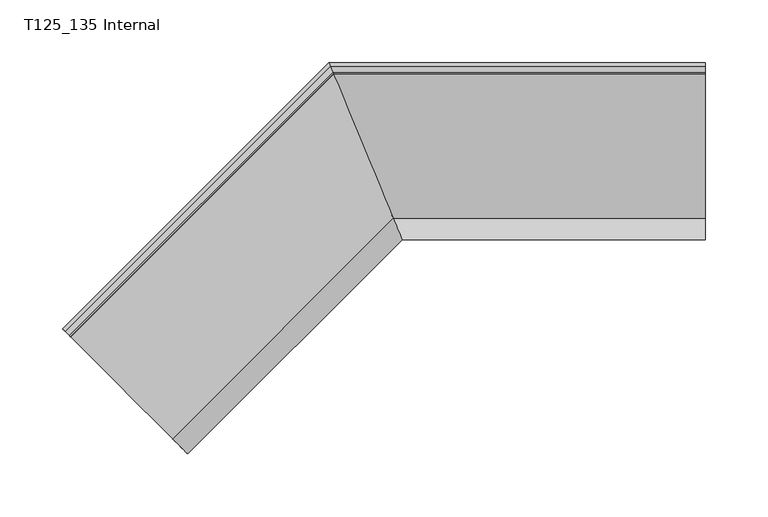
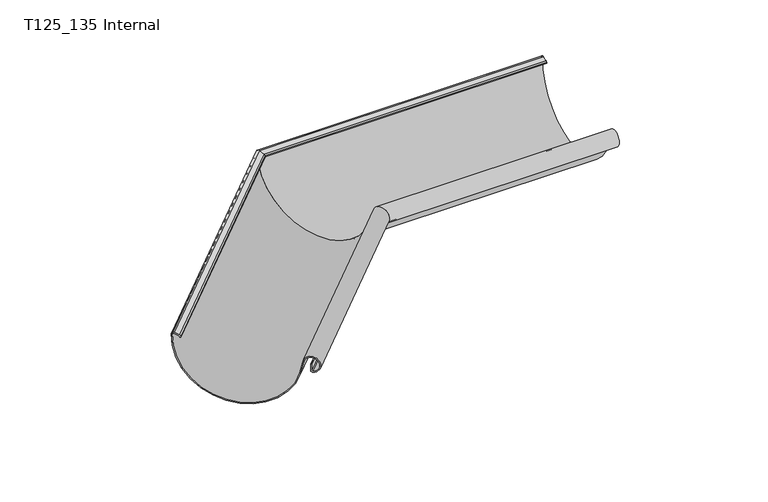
"""IFC4 building model written with IfcOpenShell, lengths in millimetres: proxy geometry, GROVIK_Gutter_Corner : T125_135 Internal."""

import ifcopenshell
import ifcopenshell.guid

model = None  # the IFC model being written
_history = None  # IfcOwnerHistory: only IFC2X3 demands one
_inside = {}  # id of a spatial element -> (the spatial element, [elements in it])
_under = {}  # id of a project, library or spatial element -> (it, [spatial elements below it])
_declared = {}  # id of a project -> (the project, [libraries it declares])
_typed = {}  # id of a type object -> (the type object, [elements of that type])
_made_of = {}  # id of a material, layer set ... -> (it, [elements and type objects made of it])


def new_model(schema):
    """Start an empty IFC model of exactly this schema.

    Asked for "IFC4X3", IfcOpenShell would pick the latest addendum, in which some entities
    have other attributes; the version numbers below select the first issue.
    IFC2X3 requires an IfcOwnerHistory on every rooted entity: one is made here for all.
    """
    global model, _history
    if schema == "IFC4X3":
        model = ifcopenshell.file(schema_version=(4, 3, 0, 0))
    else:
        model = ifcopenshell.file(schema=schema)
    _inside.clear()
    _under.clear()
    _declared.clear()
    _typed.clear()
    _made_of.clear()
    _history = None
    if model.schema == "IFC2X3":
        org = make("IfcOrganization", Name="unknown")
        user = make(
            "IfcPersonAndOrganization",
            ThePerson=make("IfcPerson", FamilyName="unknown"),
            TheOrganization=org,
        )
        app = make(
            "IfcApplication",
            ApplicationDeveloper=org,
            Version="unknown",
            ApplicationFullName="unknown",
            ApplicationIdentifier="unknown",
        )
        _history = make(
            "IfcOwnerHistory",
            OwningUser=user,
            OwningApplication=app,
            ChangeAction="ADDED",
            CreationDate=0,
        )
    return model


def make(cls, **values):
    """One entity of the class cls with the attributes given. An attribute that is None is left unset."""
    return model.create_entity(
        cls, **{name: value for name, value in values.items() if value is not None}
    )


def rooted(cls, **values):
    """An entity with a GlobalId (a new one), such as an element, a storey or a relation."""
    return make(cls, GlobalId=ifcopenshell.guid.new(), OwnerHistory=_history, **values)


def si_unit(unit_type, name, prefix=None):
    """IfcSIUnit, for example si_unit("LENGTHUNIT", "METRE", prefix="MILLI")."""
    return make("IfcSIUnit", UnitType=unit_type, Prefix=prefix, Name=name)


def assignment(units):
    """IfcUnitAssignment: the units of a project."""
    return None if units is None else make("IfcUnitAssignment", Units=units)


def point(xyz):
    """IfcCartesianPoint."""
    return None if xyz is None else make("IfcCartesianPoint", Coordinates=xyz)


def direction(xyz):
    """IfcDirection."""
    return None if xyz is None else make("IfcDirection", DirectionRatios=xyz)


def frame(location, z_axis=None, x_axis=None):
    """IfcAxis2Placement3D, a coordinate frame: its origin and axes. An axis left out is left unset."""
    return make(
        "IfcAxis2Placement3D",
        Location=point(location),
        Axis=direction(z_axis),
        RefDirection=direction(x_axis),
    )


def origin():
    """The frame at (0, 0, 0) with its axes left unset."""
    return frame((0.0, 0.0, 0.0))


def place(relative_to, where):
    """IfcLocalPlacement: puts the frame where relative to a parent placement (None: the world)."""
    return make(
        "IfcLocalPlacement", PlacementRelTo=relative_to, RelativePlacement=where
    )


def context(
    kind, dimensions, precision=None, world=None, true_north=None, identifier=None
):
    """IfcGeometricRepresentationContext, for example the 3D "Model" context."""
    return make(
        "IfcGeometricRepresentationContext",
        ContextIdentifier=identifier,
        ContextType=kind,
        CoordinateSpaceDimension=dimensions,
        Precision=precision,
        WorldCoordinateSystem=world,
        TrueNorth=true_north,
    )


def project(units=None, contexts=None):
    """IfcProject with its units and contexts."""
    return rooted(
        "IfcProject",
        Name="project",
        RepresentationContexts=contexts,
        UnitsInContext=assignment(units),
    )


def spatial(cls, under=None, at=None, **own):
    """A site, building, storey or space (cls), placed at a placement, below another one or the project."""
    s = rooted(cls, ObjectPlacement=at, **own)
    if under is not None:
        _under.setdefault(under.id(), (under, []))[1].append(s)
    return s


def polyline(points):
    """IfcPolyline through the points."""
    return make("IfcPolyline", Points=[point(p) for p in points])


def circle_curve(where, radius):
    """IfcCircle in the frame where."""
    return make("IfcCircle", Position=where, Radius=radius)


def ellipse_curve(where, semi_axis1, semi_axis2):
    """IfcEllipse in the frame where."""
    return make(
        "IfcEllipse", Position=where, SemiAxis1=semi_axis1, SemiAxis2=semi_axis2
    )


def shape(context_of_items, identifier, shape_type, items):
    """IfcShapeRepresentation: the items that make up one representation, for example the "Body"."""
    return make(
        "IfcShapeRepresentation",
        ContextOfItems=context_of_items,
        RepresentationIdentifier=identifier,
        RepresentationType=shape_type,
        Items=items,
    )


def source(mapping_origin, context_of_items, identifier, shape_type, items):
    """IfcRepresentationMap: a shape defined once, which mapped items show again and again."""
    return make(
        "IfcRepresentationMap",
        MappingOrigin=mapping_origin,
        MappedRepresentation=shape(context_of_items, identifier, shape_type, items),
    )


def transform(
    local_origin,
    x_axis=None,
    y_axis=None,
    z_axis=None,
    scale=None,
    scale2=None,
    scale3=None,
    uniform=True,
):
    """IfcCartesianTransformationOperator3D, or its non-uniform kind. x_axis, y_axis, z_axis: its Axis1, 2, 3."""
    if uniform:
        return make(
            "IfcCartesianTransformationOperator3D",
            Axis1=direction(x_axis),
            Axis2=direction(y_axis),
            LocalOrigin=point(local_origin),
            Scale=scale,
            Axis3=direction(z_axis),
        )
    return make(
        "IfcCartesianTransformationOperator3DnonUniform",
        Axis1=direction(x_axis),
        Axis2=direction(y_axis),
        LocalOrigin=point(local_origin),
        Scale=scale,
        Axis3=direction(z_axis),
        Scale2=scale2,
        Scale3=scale3,
    )


def mapped(mapping_source, mapping_target):
    """IfcMappedItem: shows the shape of a source again, moved by a transform."""
    return make(
        "IfcMappedItem", MappingSource=mapping_source, MappingTarget=mapping_target
    )


def made_of(thing, what):
    """Note that an element or type object is made of a material, layer set ...; save() writes the relation."""
    if what is not None:
        _made_of.setdefault(what.id(), (what, []))[1].append(thing)
    return thing


def element(
    cls,
    number,
    at=None,
    inside=None,
    cuts=None,
    type_object=None,
    material=None,
    context=None,
    identifier="Body",
    shape_type=None,
    held_by="IfcProductDefinitionShape",
    body=None,
    shapes=None,
    **own,
):
    """One element of the class cls, such as IfcWall. Its Tag is "e" and its number.

    at: its placement. inside: the storey or other place that contains it. cuts: it is an
    opening in that element (IfcRelVoidsElement). A single representation is given by context,
    identifier, shape_type and body (its items); several are given by shapes. held_by: the class
    of the entity that holds the representations. save() writes the other relations.
    """
    e = rooted(cls, Tag="e%d" % number, ObjectPlacement=at, **own)
    if body is not None:
        shapes = [shape(context, identifier, shape_type, body)]
    if shapes is not None:
        e.Representation = make(held_by, Representations=shapes)
    if inside is not None:
        _inside.setdefault(inside.id(), (inside, []))[1].append(e)
    if cuts is not None:
        rooted(
            "IfcRelVoidsElement", RelatingBuildingElement=cuts, RelatedOpeningElement=e
        )
    if type_object is not None:
        _typed.setdefault(type_object.id(), (type_object, []))[1].append(e)
    return made_of(e, material)


def aggregate(whole, parts):
    """IfcRelAggregates: a whole, such as a stair, and the parts it consists of."""
    return rooted("IfcRelAggregates", RelatingObject=whole, RelatedObjects=parts)


def save(model, path):
    """Write the relations noted so far, then the file.

    IfcRelAggregates (storeys below a building ...), IfcRelContainedInSpatialStructure (elements
    in a storey), IfcRelDefinesByType, IfcRelAssociatesMaterial and IfcRelDeclares: one each for
    every whole, place, type object, material and project.
    """
    for whole, parts in _under.values():
        aggregate(whole, parts)
    for where, things in _inside.values():
        rooted(
            "IfcRelContainedInSpatialStructure",
            RelatedElements=things,
            RelatingStructure=where,
        )
    for kind, things in _typed.values():
        rooted("IfcRelDefinesByType", RelatedObjects=things, RelatingType=kind)
    for what, things in _made_of.values():
        rooted("IfcRelAssociatesMaterial", RelatedObjects=things, RelatingMaterial=what)
    for by, libraries in _declared.values():
        rooted("IfcRelDeclares", RelatingContext=by, RelatedDefinitions=libraries)
    model.write(path)


def plane_surface(at):
    """IfcPlane: the flat surface through the origin of the frame at, square to its z axis."""
    return make("IfcPlane", Position=at)


def cylinder_surface(at, radius):
    """IfcCylindricalSurface: all points at the distance radius from the z axis of the frame at."""
    return make("IfcCylindricalSurface", Position=at, Radius=radius)


def revolved_surface(curve, axis_point, axis_direction):
    """IfcSurfaceOfRevolution: the curve turned about the line through axis_point along axis_direction."""
    return make(
        "IfcSurfaceOfRevolution",
        SweptCurve=make("IfcArbitraryOpenProfileDef", ProfileType="CURVE", Curve=curve),
        AxisPosition=make("IfcAxis1Placement", Location=point(axis_point), Axis=direction(axis_direction)),
    )


def advanced_brep(points, edges, surfaces, faces):
    """IfcAdvancedBrep: a solid bounded by faces that lie on surfaces and meet in shared edges.

    An edge is (start, end): straight between two places in points (the first is 0);
    or (start, end, curve); or (start, end, curve, False) where it runs against its curve.
    A face is (place in surfaces, loops), or (place, loops, False) where it looks against
    its surface's normal. A loop lists edges by number (the first is 1), with a minus sign
    where the edge is run from its end to its start. The first loop is the outer one.
    """
    corners = [point(p) for p in points]
    vertices = [make("IfcVertexPoint", VertexGeometry=c) for c in corners]
    made = []
    for start, end, *more in edges:
        made.append(
            make(
                "IfcEdgeCurve",
                EdgeStart=vertices[start],
                EdgeEnd=vertices[end],
                EdgeGeometry=more[0] if more else make("IfcPolyline", Points=[corners[start], corners[end]]),
                SameSense=more[1] if len(more) > 1 else True,
            )
        )
    hull = []
    for where, loops, *sense in faces:
        bounds = []
        for j, loop in enumerate(loops):
            ring = [make("IfcOrientedEdge", EdgeElement=made[abs(k) - 1], Orientation=k > 0) for k in loop]
            bounds.append(
                make(
                    "IfcFaceOuterBound" if j == 0 else "IfcFaceBound",
                    Bound=make("IfcEdgeLoop", EdgeList=ring),
                    Orientation=True,
                )
            )
        hull.append(make("IfcAdvancedFace", Bounds=bounds, FaceSurface=surfaces[where], SameSense=sense[0] if sense else True))
    return make("IfcAdvancedBrep", Outer=make("IfcClosedShell", CfsFaces=hull))


def t125_135_internal_02e2136d(model_context):
    return source(origin(), model_context, "Body", "AdvancedBrep", [
        advanced_brep(
        [(-205.6420638, -218.6220049, -4.0843749), (-205.8493883, -218.4146804, -3.1253573), (-206.7181179, -217.5459508, -1.8307155), (-210.040433, -214.2236357, -0.1206148), (-211.9383361, -212.3257326, -2.0), (-123.7708814, -300.4931873, -11.2897939), (-117.6094863, -306.6545824, -19.5609673), (-118.4237304, -305.8403383, -18.572593), (-118.4237304, -305.8403383, -12.0487098), (-119.1308372, -305.1332315, -12.0487098), (-119.1308372, -305.1332315, -18.572593), (-117.5022925, -306.7617762, -20.54941), (-124.4744482, -299.7896205, -11.1898563), (-211.2310845, -213.0329843, -2.0202437), (-210.2822778, -213.9817909, -1.0603074), (-206.9599627, -217.304106, -2.7704081), (-206.5255979, -217.7384708, -3.417729), (-206.3182734, -217.9457953, -4.3767466), (3.4349116, -8.1926103, -4.3767466), (3.831026, -9.148915, -4.0843749), (3.3134638, -7.8994092, -3.417729), (3.0590188, -7.2851246, -2.7704081), (1.1128516, -2.5866615, -1.0603074), (0.5570536, -1.2448463, -2.0202437), (51.3779144, -123.9372579, -11.1898563), (55.4621087, -133.797375, -20.54941), (54.5081293, -131.494265, -18.572593), (54.5081293, -131.494265, -12.0487098), (54.9223428, -132.494265, -12.0487098), (54.9223428, -132.494265, -18.572593), (55.399316, -133.6457801, -19.5609673), (51.7900543, -124.9322516, -11.2897939), (0.1427551, -0.2446413, -2.0), (1.254521, -2.9286816, -0.1206148), (3.2006881, -7.6271447, -1.8307155), (3.7095782, -8.8557139, -3.1253573)],
        [
            (0, 1),
            (1, 2, circle_curve(frame((-207.2018075, -217.0622613, -3.7101007), z_axis=(-0.7071067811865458, -0.7071067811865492, 0.0), x_axis=(0.7071067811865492, -0.7071067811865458, 0.0)), 2.0)),
            (2, 3),
            (3, 4, circle_curve(frame((-210.5241226, -213.7399461, -2.0), z_axis=(-0.7071067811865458, -0.7071067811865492, 0.0), x_axis=(0.7071067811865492, -0.7071067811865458, 0.0)), 2.0)),
            (4, 5, circle_curve(frame((-167.7700566, -256.4940121, -5.0399641), z_axis=(-0.7071067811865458, -0.7071067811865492, 0.0), x_axis=(0.7071067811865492, -0.7071067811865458, 0.0)), 62.5373106)),
            (5, 6, circle_curve(frame((-118.424108, -305.8399607, -12.0492723), z_axis=(0.7071067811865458, 0.7071067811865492, 0.0), x_axis=(0.7071067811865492, -0.7071067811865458, 0.0)), 7.5995249)),
            (6, 7, circle_curve(frame((-117.7166726, -306.5473961, -18.572593), z_axis=(0.7071067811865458, 0.7071067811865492, 0.0), x_axis=(0.7071067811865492, -0.7071067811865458, 0.0)), 0.9999308)),
            (7, 8),
            (8, 9),
            (9, 10),
            (10, 11, circle_curve(frame((-117.7166726, -306.5473961, -18.572593), z_axis=(-0.7071067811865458, -0.7071067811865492, 0.0), x_axis=(0.7071067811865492, -0.7071067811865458, 0.0)), 1.9999308)),
            (11, 12, circle_curve(frame((-118.424108, -305.8399607, -12.0492723), z_axis=(-0.7071067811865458, -0.7071067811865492, 0.0), x_axis=(0.7071067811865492, -0.7071067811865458, 0.0)), 8.5995249)),
            (12, 13, circle_curve(frame((-167.7700566, -256.4940121, -5.0399641), z_axis=(0.7071067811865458, 0.7071067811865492, 0.0), x_axis=(0.7071067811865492, -0.7071067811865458, 0.0)), 61.5373106)),
            (13, 14, circle_curve(frame((-210.5241226, -213.7399461, -2.0), z_axis=(0.7071067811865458, 0.7071067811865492, 0.0), x_axis=(0.7071067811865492, -0.7071067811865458, 0.0)), 1.0)),
            (14, 15),
            (15, 16, circle_curve(frame((-207.2018075, -217.0622613, -3.7101007), z_axis=(0.7071067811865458, 0.7071067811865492, 0.0), x_axis=(0.7071067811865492, -0.7071067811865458, 0.0)), 1.0)),
            (16, 17),
            (17, 0),
            (17, 18),
            (18, 19),
            (19, 0),
            (16, 20),
            (20, 18),
            (15, 21),
            (21, 20, ellipse_curve(frame((2.9173494, -6.9431044, -3.7101007), z_axis=(0.9238795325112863, 0.3826834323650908, 0.0), x_axis=(-0.38268343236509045, 0.9238795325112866, 0.0)), 1.0823922, 1.0)),
            (14, 22),
            (22, 21),
            (13, 23),
            (23, 22, ellipse_curve(frame((0.9711822, -2.2446413, -2.0), z_axis=(0.9238795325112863, 0.3826834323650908, 0.0), x_axis=(-0.38268343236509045, 0.9238795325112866, 0.0)), 1.0823922, 1.0)),
            (12, 24),
            (24, 23, ellipse_curve(frame((26.0159342, -62.7080212, -5.0399641), z_axis=(0.9238795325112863, 0.3826834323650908, 0.0), x_axis=(-0.38268343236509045, 0.9238795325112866, 0.0)), 66.607505, 61.5373106)),
            (11, 25),
            (25, 24, ellipse_curve(frame((54.9221217, -132.493731, -12.0492723), z_axis=(-0.9238795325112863, -0.3826834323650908, 0.0), x_axis=(0.38268343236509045, -0.9238795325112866, 0.0)), 9.3080586, 8.5995249)),
            (10, 26),
            (26, 25, ellipse_curve(frame((55.3365277, -133.4941957, -18.572593), z_axis=(-0.9238795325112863, -0.3826834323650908, 0.0), x_axis=(0.38268343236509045, -0.9238795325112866, 0.0)), 2.1647095, 1.9999308)),
            (9, 27),
            (27, 26),
            (8, 28),
            (28, 27),
            (7, 29),
            (29, 28),
            (6, 30),
            (30, 29, ellipse_curve(frame((55.3365277, -133.4941957, -18.572593), z_axis=(0.9238795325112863, 0.3826834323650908, 0.0), x_axis=(-0.38268343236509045, 0.9238795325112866, 0.0)), 1.0823173, 0.9999308)),
            (5, 31),
            (31, 30, ellipse_curve(frame((54.9221217, -132.493731, -12.0492723), z_axis=(0.9238795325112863, 0.3826834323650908, 0.0), x_axis=(-0.38268343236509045, 0.9238795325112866, 0.0)), 8.2256664, 7.5995249)),
            (4, 32),
            (32, 31, ellipse_curve(frame((26.0159342, -62.7080212, -5.0399641), z_axis=(-0.9238795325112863, -0.3826834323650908, 0.0), x_axis=(0.38268343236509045, -0.9238795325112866, 0.0)), 67.6898972, 62.5373106)),
            (3, 33),
            (33, 32, ellipse_curve(frame((0.9711822, -2.2446413, -2.0), z_axis=(-0.9238795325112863, -0.3826834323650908, 0.0), x_axis=(0.38268343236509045, -0.9238795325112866, 0.0)), 2.1647844, 2.0)),
            (2, 34),
            (34, 33),
            (1, 35),
            (35, 34, ellipse_curve(frame((2.9173494, -6.9431044, -3.7101007), z_axis=(-0.9238795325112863, -0.3826834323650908, 0.0), x_axis=(0.38268343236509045, -0.9238795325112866, 0.0)), 2.1647844, 2.0)),
            (19, 35),
        ],
        [
            plane_surface(frame((-211.990613, -212.2734557, 0.0), z_axis=(-0.7071067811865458, -0.7071067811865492, 0.0), x_axis=(0.0, 0.0, 1.0))),
            plane_surface(frame((-205.6420638, -218.6220049, -4.0843749), z_axis=(0.20673801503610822, -0.20673801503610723, -0.956304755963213), x_axis=(0.7071067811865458, 0.7071067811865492, 0.0))),
            plane_surface(frame((-206.3182734, -217.9457953, -4.3767466), z_axis=(-0.6762095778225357, 0.6762095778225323, -0.29237170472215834), x_axis=(0.7071067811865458, 0.7071067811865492, 0.0))),
            revolved_surface(polyline([(3.91734939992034, -7.357317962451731, -3.7101007), (-206.49470071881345, -217.76936808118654, -3.7101007)]), (-207.2018075, -217.0622613, -3.7101007), (0.7071067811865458, 0.7071067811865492, 0.0)),
            plane_surface(frame((-206.9599627, -217.304106, -2.7704081), z_axis=(-0.24184476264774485, 0.24184476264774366, -0.9396926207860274), x_axis=(0.7071067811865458, 0.7071067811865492, 0.0))),
            revolved_surface(polyline([(1.9711821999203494, -2.658854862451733, -2.0), (-209.81701586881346, -214.44705293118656, -2.0)]), (-210.5241226, -213.7399461, -2.0), (0.7071067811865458, 0.7071067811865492, 0.0)),
            revolved_surface(polyline([(87.55324484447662, -88.19760989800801, -5.0399641), (-124.25660702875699, -300.0074617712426, -5.0399641)]), (-167.7700566, -256.4940121, -5.0399641), (0.7071067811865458, 0.7071067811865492, 0.0)),
            cylinder_surface(frame((-118.424108, -305.8399607, -12.0492723), z_axis=(-0.7071067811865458, -0.7071067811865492, 0.0), x_axis=(0.7071067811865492, -0.7071067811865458, 0.0)), 8.5995249),
            cylinder_surface(frame((-117.7166726, -306.5473961, -18.572593), z_axis=(-0.7071067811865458, -0.7071067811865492, 0.0), x_axis=(0.7071067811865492, -0.7071067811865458, 0.0)), 1.9999308),
            plane_surface(frame((-119.1308372, -305.1332315, -18.572593), z_axis=(-0.7071067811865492, 0.7071067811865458, 0.0), x_axis=(0.7071067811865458, 0.7071067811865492, 0.0))),
            plane_surface(frame((-119.1308372, -305.1332315, -12.0487098), z_axis=(0.0, 0.0, 1.0), x_axis=(0.7071067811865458, 0.7071067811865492, 0.0))),
            plane_surface(frame((-118.4237304, -305.8403383, -12.0487098), z_axis=(0.7071067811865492, -0.7071067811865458, 0.0), x_axis=(0.7071067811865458, 0.7071067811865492, 0.0))),
            revolved_surface(polyline([(56.336458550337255, -133.9083806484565, -18.572593), (-117.00961475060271, -307.2544539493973, -18.572593)]), (-117.7166726, -306.5473961, -18.572593), (0.7071067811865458, 0.7071067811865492, 0.0)),
            revolved_surface(polyline([(62.52164657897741, -135.64155730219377, -12.0492723), (-113.05043240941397, -311.213636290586, -12.0492723)]), (-118.424108, -305.8399607, -12.0492723), (0.7071067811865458, 0.7071067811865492, 0.0)),
            cylinder_surface(frame((-167.7700566, -256.4940121, -5.0399641), z_axis=(-0.7071067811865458, -0.7071067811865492, 0.0), x_axis=(0.7071067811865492, -0.7071067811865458, 0.0)), 62.5373106),
            cylinder_surface(frame((-210.5241226, -213.7399461, -2.0), z_axis=(-0.7071067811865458, -0.7071067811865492, 0.0), x_axis=(0.7071067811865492, -0.7071067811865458, 0.0)), 2.0),
            plane_surface(frame((-210.040433, -214.2236357, -0.1206148), z_axis=(0.24184476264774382, -0.24184476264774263, 0.9396926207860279), x_axis=(0.7071067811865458, 0.7071067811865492, 0.0))),
            cylinder_surface(frame((-207.2018075, -217.0622613, -3.7101007), z_axis=(-0.7071067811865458, -0.7071067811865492, 0.0), x_axis=(0.7071067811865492, -0.7071067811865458, 0.0)), 2.0),
            plane_surface(frame((-205.8493883, -218.4146804, -3.1253573), z_axis=(0.6762095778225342, -0.676209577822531, 0.29237170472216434), x_axis=(0.7071067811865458, 0.7071067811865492, 0.0))),
            plane_surface(frame((58.5162443, -141.1707107, 250.0), z_axis=(0.9238795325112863, 0.3826834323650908, 0.0), x_axis=(0.0, 0.0, -1.0))),
        ],
        [
            (0, [[1, 2, 3, 4, 5, 6, 7, 8, 9, 10, 11, 12, 13, 14, 15, 16, 17, 18]]),
            (1, [[19, 20, 21, -18]]),
            (2, [[22, 23, -19, -17]]),
            (3, [[24, 25, -22, -16]]),
            (4, [[26, 27, -24, -15]]),
            (5, [[28, 29, -26, -14]]),
            (6, [[30, 31, -28, -13]]),
            (7, [[32, 33, -30, -12]]),
            (8, [[34, 35, -32, -11]]),
            (9, [[36, 37, -34, -10]]),
            (10, [[38, 39, -36, -9]]),
            (11, [[40, 41, -38, -8]]),
            (12, [[42, 43, -40, -7]]),
            (13, [[44, 45, -42, -6]]),
            (14, [[46, 47, -44, -5]]),
            (15, [[48, 49, -46, -4]]),
            (16, [[50, 51, -48, -3]]),
            (17, [[52, 53, -50, -2]]),
            (18, [[-21, 54, -52, -1]]),
            (19, [[-23, -25, -27, -29, -31, -33, -35, -37, -39, -41, -43, -45, -47, -49, -51, -53, -54, -20]]),
        ],
    ),
        advanced_brep(
        [(300.0, -9.1782044, -4.0843749), (300.0, -8.2218996, -4.3767466), (300.0, -7.9286985, -3.417729), (300.0, -7.3144139, -2.7704081), (300.0, -2.6159508, -1.0603074), (300.0, -1.2741356, -2.0202437), (300.0, -123.9665472, -11.1898563), (300.0, -133.8266643, -20.54941), (300.0, -131.5235543, -18.572593), (300.0, -131.5235543, -12.0487098), (300.0, -132.5235543, -12.0487098), (300.0, -132.5235543, -18.572593), (300.0, -133.6750695, -19.5609673), (300.0, -124.9615409, -11.2897939), (300.0, -0.2739306, -2.0), (300.0, -2.9579709, -0.1206148), (300.0, -7.656434, -1.8307155), (300.0, -8.8850033, -3.1253573), (3.7603154, -9.1782044, -4.0843749), (3.364201, -8.2218996, -4.3767466), (3.2427531, -7.9286985, -3.417729), (2.9883081, -7.3144139, -2.7704081), (1.0421409, -2.6159508, -1.0603074), (0.4863429, -1.2741356, -2.0202437), (51.3072038, -123.9665472, -11.1898563), (55.391398, -133.8266643, -20.54941), (54.4374186, -131.5235543, -18.572593), (54.4374186, -131.5235543, -12.0487098), (54.8516322, -132.5235543, -12.0487098), (54.8516322, -132.5235543, -18.572593), (55.3286054, -133.6750695, -19.5609673), (51.7193437, -124.9615409, -11.2897939), (0.0720444, -0.2739306, -2.0), (1.1838103, -2.9579709, -0.1206148), (3.1299775, -7.656434, -1.8307155), (3.6388675, -8.8850033, -3.1253573)],
        [
            (0, 1),
            (1, 2),
            (2, 3, circle_curve(frame((300.0, -6.9723938, -3.7101007), z_axis=(-1.0, 0.0, 0.0), x_axis=(0.0, -1.0, 0.0)), 1.0)),
            (3, 4),
            (4, 5, circle_curve(frame((300.0, -2.2739306, -2.0), z_axis=(-1.0, 0.0, 0.0), x_axis=(0.0, -1.0, 0.0)), 1.0)),
            (5, 6, circle_curve(frame((300.0, -62.7373106, -5.0399641), z_axis=(-1.0, 0.0, 0.0), x_axis=(0.0, -1.0, 0.0)), 61.5373106)),
            (6, 7, circle_curve(frame((300.0, -132.5230203, -12.0492723), z_axis=(1.0, 0.0, 0.0), x_axis=(0.0, -1.0, 0.0)), 8.5995249)),
            (7, 8, circle_curve(frame((300.0, -133.5234851, -18.572593), z_axis=(1.0, 0.0, 0.0), x_axis=(0.0, -1.0, 0.0)), 1.9999308)),
            (8, 9),
            (9, 10),
            (10, 11),
            (11, 12, circle_curve(frame((300.0, -133.5234851, -18.572593), z_axis=(-1.0, 0.0, 0.0), x_axis=(0.0, -1.0, 0.0)), 0.9999308)),
            (12, 13, circle_curve(frame((300.0, -132.5230203, -12.0492723), z_axis=(-1.0, 0.0, 0.0), x_axis=(0.0, -1.0, 0.0)), 7.5995249)),
            (13, 14, circle_curve(frame((300.0, -62.7373106, -5.0399641), z_axis=(1.0, 0.0, 0.0), x_axis=(0.0, -1.0, 0.0)), 62.5373106)),
            (14, 15, circle_curve(frame((300.0, -2.2739306, -2.0), z_axis=(1.0, 0.0, 0.0), x_axis=(0.0, -1.0, 0.0)), 2.0)),
            (15, 16),
            (16, 17, circle_curve(frame((300.0, -6.9723938, -3.7101007), z_axis=(1.0, 0.0, 0.0), x_axis=(0.0, -1.0, 0.0)), 2.0)),
            (17, 0),
            (0, 18),
            (18, 19),
            (19, 1),
            (19, 20),
            (20, 2),
            (20, 21, ellipse_curve(frame((2.8466387, -6.9723938, -3.7101007), z_axis=(-0.9238795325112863, -0.382683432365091, 0.0), x_axis=(-0.3826834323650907, 0.9238795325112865, 0.0)), 1.0823922, 1.0)),
            (21, 3),
            (21, 22),
            (22, 4),
            (22, 23, ellipse_curve(frame((0.9004716, -2.2739306, -2.0), z_axis=(-0.9238795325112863, -0.382683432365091, 0.0), x_axis=(-0.3826834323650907, 0.9238795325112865, 0.0)), 1.0823922, 1.0)),
            (23, 5),
            (23, 24, ellipse_curve(frame((25.9452235, -62.7373106, -5.0399641), z_axis=(-0.9238795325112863, -0.382683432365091, 0.0), x_axis=(-0.3826834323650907, 0.9238795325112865, 0.0)), 66.607505, 61.5373106)),
            (24, 6),
            (24, 25, ellipse_curve(frame((54.851411, -132.5230203, -12.0492723), z_axis=(0.9238795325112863, 0.382683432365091, 0.0), x_axis=(0.3826834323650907, -0.9238795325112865, 0.0)), 9.3080586, 8.5995249)),
            (25, 7),
            (25, 26, ellipse_curve(frame((55.265817, -133.5234851, -18.572593), z_axis=(0.9238795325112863, 0.382683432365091, 0.0), x_axis=(0.3826834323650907, -0.9238795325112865, 0.0)), 2.1647095, 1.9999308)),
            (26, 8),
            (26, 27),
            (27, 9),
            (27, 28),
            (28, 10),
            (28, 29),
            (29, 11),
            (29, 30, ellipse_curve(frame((55.265817, -133.5234851, -18.572593), z_axis=(-0.9238795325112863, -0.382683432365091, 0.0), x_axis=(-0.3826834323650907, 0.9238795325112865, 0.0)), 1.0823173, 0.9999308)),
            (30, 12),
            (30, 31, ellipse_curve(frame((54.851411, -132.5230203, -12.0492723), z_axis=(-0.9238795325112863, -0.382683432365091, 0.0), x_axis=(-0.3826834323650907, 0.9238795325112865, 0.0)), 8.2256664, 7.5995249)),
            (31, 13),
            (31, 32, ellipse_curve(frame((25.9452235, -62.7373106, -5.0399641), z_axis=(0.9238795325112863, 0.382683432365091, 0.0), x_axis=(0.3826834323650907, -0.9238795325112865, 0.0)), 67.6898972, 62.5373106)),
            (32, 14),
            (32, 33, ellipse_curve(frame((0.9004716, -2.2739306, -2.0), z_axis=(0.9238795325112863, 0.382683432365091, 0.0), x_axis=(0.3826834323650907, -0.9238795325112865, 0.0)), 2.1647844, 2.0)),
            (33, 15),
            (33, 34),
            (34, 16),
            (34, 35, ellipse_curve(frame((2.8466387, -6.9723938, -3.7101007), z_axis=(0.9238795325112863, 0.382683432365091, 0.0), x_axis=(0.3826834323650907, -0.9238795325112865, 0.0)), 2.1647844, 2.0)),
            (35, 17),
            (35, 18),
        ],
        [
            plane_surface(frame((300.0, -0.2, 0.0), z_axis=(1.0, 0.0, 0.0), x_axis=(0.0, 0.0, 1.0))),
            plane_surface(frame((300.0, -9.1782044, -4.0843749), z_axis=(0.0, -0.2923717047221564, -0.956304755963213), x_axis=(-1.0, 0.0, 0.0))),
            plane_surface(frame((300.0, -8.2218996, -4.3767466), z_axis=(0.0, 0.9563047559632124, -0.2923717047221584), x_axis=(-1.0, 0.0, 0.0))),
            revolved_surface(polyline([(2.4324251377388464, -7.9723938, -3.7101007), (300.0, -7.9723938, -3.7101007)]), (300.0, -6.9723938, -3.7101007), (-1.0, 0.0, 0.0)),
            plane_surface(frame((300.0, -7.3144139, -2.7704081), z_axis=(0.0, 0.342020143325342, -0.9396926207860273), x_axis=(-1.0, 0.0, 0.0))),
            revolved_surface(polyline([(0.48625803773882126, -3.2739306, -2.0), (300.0, -3.2739306, -2.0)]), (300.0, -2.2739306, -2.0), (-1.0, 0.0, 0.0)),
            revolved_surface(polyline([(0.4556348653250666, -124.2746212, -5.0399641), (300.0, -124.2746212, -5.0399641)]), (300.0, -62.7373106, -5.0399641), (-1.0, 0.0, 0.0)),
            cylinder_surface(frame((300.0, -132.5230203, -12.0492723), z_axis=(1.0, 0.0, 0.0), x_axis=(0.0, -1.0, 0.0)), 8.5995249),
            cylinder_surface(frame((300.0, -133.5234851, -18.572593), z_axis=(1.0, 0.0, 0.0), x_axis=(0.0, -1.0, 0.0)), 1.9999308),
            plane_surface(frame((300.0, -131.5235543, -18.572593), z_axis=(0.0, 1.0, 0.0), x_axis=(-1.0, 0.0, 0.0))),
            plane_surface(frame((300.0, -131.5235543, -12.0487098), z_axis=(0.0, 0.0, 1.0), x_axis=(-1.0, 0.0, 0.0))),
            plane_surface(frame((300.0, -132.5235543, -12.0487098), z_axis=(0.0, -1.0, 0.0), x_axis=(-1.0, 0.0, 0.0))),
            revolved_surface(polyline([(54.85163210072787, -134.52341589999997, -18.572593), (300.0, -134.52341589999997, -18.572593)]), (300.0, -133.5234851, -18.572593), (-1.0, 0.0, 0.0)),
            revolved_surface(polyline([(51.70358474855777, -140.12254520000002, -12.0492723), (300.0, -140.12254520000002, -12.0492723)]), (300.0, -132.5230203, -12.0492723), (-1.0, 0.0, 0.0)),
            cylinder_surface(frame((300.0, -62.7373106, -5.0399641), z_axis=(1.0, 0.0, 0.0), x_axis=(0.0, -1.0, 0.0)), 62.5373106),
            cylinder_surface(frame((300.0, -2.2739306, -2.0), z_axis=(1.0, 0.0, 0.0), x_axis=(0.0, -1.0, 0.0)), 2.0),
            plane_surface(frame((300.0, -2.9579709, -0.1206148), z_axis=(0.0, -0.3420201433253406, 0.9396926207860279), x_axis=(-1.0, 0.0, 0.0))),
            cylinder_surface(frame((300.0, -6.9723938, -3.7101007), z_axis=(1.0, 0.0, 0.0), x_axis=(0.0, -1.0, 0.0)), 2.0),
            plane_surface(frame((300.0, -8.8850033, -3.1253573), z_axis=(0.0, -0.9563047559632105, 0.29237170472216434), x_axis=(-1.0, 0.0, 0.0))),
            plane_surface(frame((58.4455337, -141.2, 250.0), z_axis=(-0.9238795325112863, -0.382683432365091, 0.0), x_axis=(0.0, 0.0, -1.0))),
        ],
        [
            (0, [[1, 2, 3, 4, 5, 6, 7, 8, 9, 10, 11, 12, 13, 14, 15, 16, 17, 18]]),
            (1, [[-1, 19, 20, 21]]),
            (2, [[-2, -21, 22, 23]]),
            (3, [[-3, -23, 24, 25]]),
            (4, [[-4, -25, 26, 27]]),
            (5, [[-5, -27, 28, 29]]),
            (6, [[-6, -29, 30, 31]]),
            (7, [[-7, -31, 32, 33]]),
            (8, [[-8, -33, 34, 35]]),
            (9, [[-9, -35, 36, 37]]),
            (10, [[-10, -37, 38, 39]]),
            (11, [[-11, -39, 40, 41]]),
            (12, [[-12, -41, 42, 43]]),
            (13, [[-13, -43, 44, 45]]),
            (14, [[-14, -45, 46, 47]]),
            (15, [[-15, -47, 48, 49]]),
            (16, [[-16, -49, 50, 51]]),
            (17, [[-17, -51, 52, 53]]),
            (18, [[-18, -53, 54, -19]]),
            (19, [[-20, -54, -52, -50, -48, -46, -44, -42, -40, -38, -36, -34, -32, -30, -28, -26, -24, -22]]),
        ],
    ),
    ])


if __name__ == "__main__":
    model = new_model("IFC4")
    model_context = context("Model", 3, world=origin())
    ifc_project = project(units=[si_unit("LENGTHUNIT", "METRE", prefix="MILLI")], contexts=[model_context])
    site = spatial("IfcSite", under=ifc_project)
    building = spatial("IfcBuilding", under=site)
    placement = place(None, origin())
    t125_135_internal_shape = t125_135_internal_02e2136d(model_context)
    element("IfcBuildingElementProxy", 1, Name="GROVIK_Gutter_Corner : T125_135 Internal", ObjectType="GROVIK_Gutter_Corner : T125_135 Internal", at=placement, inside=building, context=model_context, shape_type="MappedRepresentation", body=[
        mapped(t125_135_internal_shape, transform((0.0, 0.0, 0.0), x_axis=(1.0, 0.0, 0.0), y_axis=(0.0, 1.0, 0.0), z_axis=(0.0, 0.0, 1.0))),
    ])
    save(model, "model.ifc")
